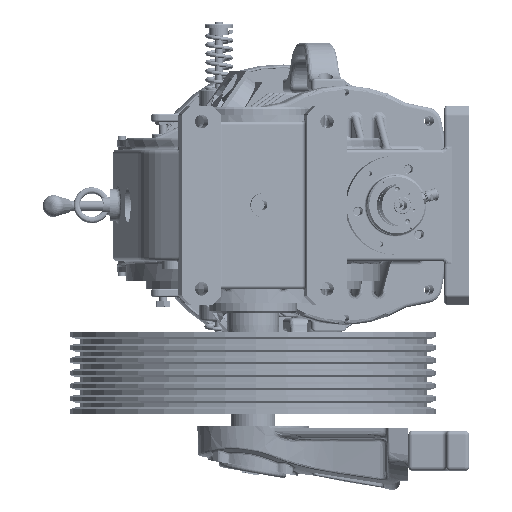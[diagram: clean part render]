
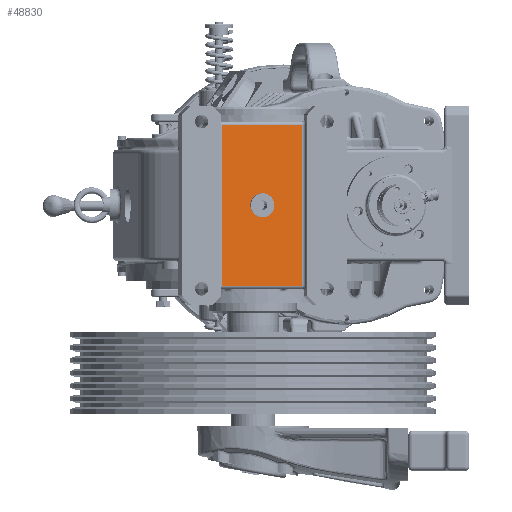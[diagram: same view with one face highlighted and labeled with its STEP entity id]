
A CAD part, front view. The second image highlights one B-rep face of the part: STEP entity #48830.
In plain terms, the highlighted planar face has unit normal (0.174, -0.985, 0).
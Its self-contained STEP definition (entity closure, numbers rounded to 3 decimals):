
#1607 = DIRECTION ( 'NONE',  ( 0., 0., -1. ) ) ;
#13499 = DIRECTION ( 'NONE',  ( 0., 0., 1. ) ) ;
#15701 = EDGE_CURVE ( 'NONE', #157938, #82622, #273461, .T. ) ;
#17853 = VERTEX_POINT ( 'NONE', #246123 ) ;
#27253 = CARTESIAN_POINT ( 'NONE',  ( -221.435, -422.814, 0. ) ) ;
#29777 = VECTOR ( 'NONE', #1607, 1000. ) ;
#32212 = EDGE_LOOP ( 'NONE', ( #226587, #43744, #193572, #260593 ) ) ;
#36249 = VECTOR ( 'NONE', #103306, 1000. ) ;
#43744 = ORIENTED_EDGE ( 'NONE', *, *, #265611, .T. ) ;
#45173 = AXIS2_PLACEMENT_3D ( 'NONE', #74231, #97075, #249988 ) ;
#46771 = EDGE_CURVE ( 'NONE', #95403, #78630, #226976, .T. ) ;
#48196 = EDGE_LOOP ( 'NONE', ( #276317, #184039 ) ) ;
#48830 = ADVANCED_FACE ( 'NONE', ( #117103, #200082 ), #115708, .T. ) ;
#53400 = DIRECTION ( 'NONE',  ( 0.174, -0.985, 0. ) ) ;
#55590 = CARTESIAN_POINT ( 'NONE',  ( -156.438, -411.354, -101. ) ) ;
#74231 = CARTESIAN_POINT ( 'NONE',  ( -186.967, -416.737, -70. ) ) ;
#76398 = LINE ( 'NONE', #253573, #82217 ) ;
#78630 = VERTEX_POINT ( 'NONE', #27253 ) ;
#82217 = VECTOR ( 'NONE', #13499, 1000. ) ;
#82622 = VERTEX_POINT ( 'NONE', #267936 ) ;
#91366 = EDGE_CURVE ( 'NONE', #78630, #95403, #223692, .T. ) ;
#95403 = VERTEX_POINT ( 'NONE', #124908 ) ;
#97075 = DIRECTION ( 'NONE',  ( 0.174, -0.985, 0. ) ) ;
#103306 = DIRECTION ( 'NONE',  ( -0.985, -0.174, 0. ) ) ;
#106654 = CARTESIAN_POINT ( 'NONE',  ( -206.663, -420.21, 0. ) ) ;
#107363 = LINE ( 'NONE', #258877, #29777 ) ;
#112320 = DIRECTION ( 'NONE',  ( 0.985, 0.174, 0. ) ) ;
#115708 = PLANE ( 'NONE',  #45173 ) ;
#117103 = FACE_BOUND ( 'NONE', #48196, .T. ) ;
#117694 = DIRECTION ( 'NONE',  ( 0.985, 0.174, 0. ) ) ;
#124908 = CARTESIAN_POINT ( 'NONE',  ( -191.891, -417.605, 0. ) ) ;
#139624 = VERTEX_POINT ( 'NONE', #55590 ) ;
#157938 = VERTEX_POINT ( 'NONE', #206450 ) ;
#158596 = AXIS2_PLACEMENT_3D ( 'NONE', #161979, #53400, #117694 ) ;
#161979 = CARTESIAN_POINT ( 'NONE',  ( -206.663, -420.21, 0. ) ) ;
#162638 = VECTOR ( 'NONE', #192524, 1000. ) ;
#172471 = CARTESIAN_POINT ( 'NONE',  ( -186.967, -416.737, -101. ) ) ;
#174282 = EDGE_CURVE ( 'NONE', #139624, #157938, #76398, .T. ) ;
#184039 = ORIENTED_EDGE ( 'NONE', *, *, #46771, .F. ) ;
#191609 = AXIS2_PLACEMENT_3D ( 'NONE', #106654, #242401, #112320 ) ;
#192524 = DIRECTION ( 'NONE',  ( 0.985, 0.174, 0. ) ) ;
#192728 = EDGE_CURVE ( 'NONE', #17853, #139624, #261090, .T. ) ;
#193572 = ORIENTED_EDGE ( 'NONE', *, *, #192728, .T. ) ;
#200082 = FACE_OUTER_BOUND ( 'NONE', #32212, .T. ) ;
#206450 = CARTESIAN_POINT ( 'NONE',  ( -156.438, -411.354, 101. ) ) ;
#223692 = CIRCLE ( 'NONE', #191609, 15. ) ;
#226587 = ORIENTED_EDGE ( 'NONE', *, *, #15701, .T. ) ;
#226976 = CIRCLE ( 'NONE', #158596, 15. ) ;
#242401 = DIRECTION ( 'NONE',  ( 0.174, -0.985, 0. ) ) ;
#246123 = CARTESIAN_POINT ( 'NONE',  ( -256.889, -429.066, -101. ) ) ;
#249988 = DIRECTION ( 'NONE',  ( 0.985, 0.174, 0. ) ) ;
#253404 = CARTESIAN_POINT ( 'NONE',  ( -186.967, -416.737, 101. ) ) ;
#253573 = CARTESIAN_POINT ( 'NONE',  ( -156.438, -411.354, 101. ) ) ;
#258877 = CARTESIAN_POINT ( 'NONE',  ( -256.889, -429.066, -101. ) ) ;
#260593 = ORIENTED_EDGE ( 'NONE', *, *, #174282, .T. ) ;
#261090 = LINE ( 'NONE', #172471, #162638 ) ;
#265611 = EDGE_CURVE ( 'NONE', #82622, #17853, #107363, .T. ) ;
#267936 = CARTESIAN_POINT ( 'NONE',  ( -256.889, -429.066, 101. ) ) ;
#273461 = LINE ( 'NONE', #253404, #36249 ) ;
#276317 = ORIENTED_EDGE ( 'NONE', *, *, #91366, .F. ) ;
